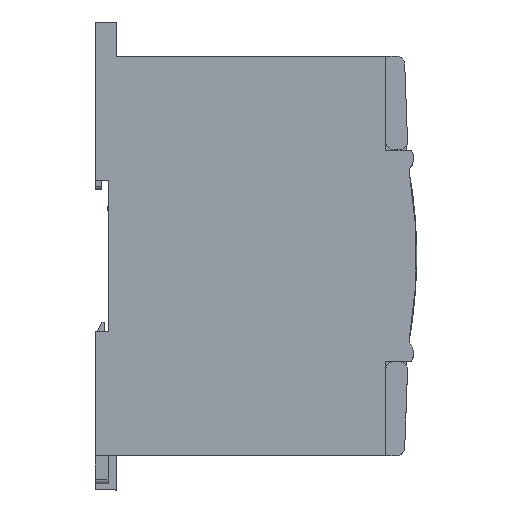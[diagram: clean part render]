
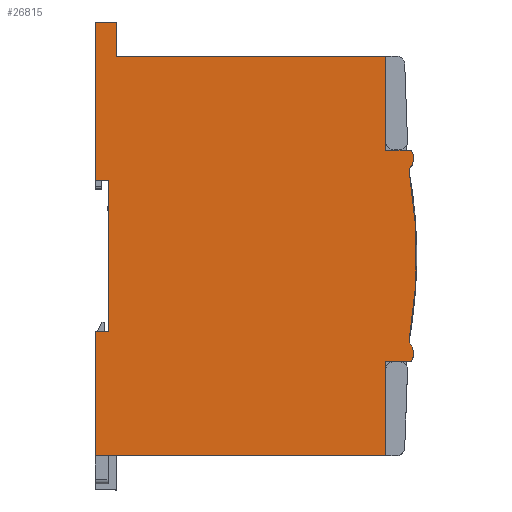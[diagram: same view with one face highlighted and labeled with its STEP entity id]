
A CAD part, top view. The second image highlights one B-rep face of the part: STEP entity #26815.
In plain terms, the highlighted planar face has unit normal (0, 0, 1) as drawn and (-1, 0, 0) by its records, which use the part's own axes.
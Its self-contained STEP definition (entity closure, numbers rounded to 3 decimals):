
#148 = DIRECTION ( 'NONE',  ( 0., 0., -1. ) ) ;
#1111 = ORIENTED_EDGE ( 'NONE', *, *, #59226, .T. ) ;
#1520 = CARTESIAN_POINT ( 'NONE',  ( 0., 71.8, -75.6 ) ) ;
#2378 = CARTESIAN_POINT ( 'NONE',  ( 0., 71.8, -1.268 ) ) ;
#2924 = EDGE_CURVE ( 'NONE', #19900, #71574, #72274, .T. ) ;
#3504 = CARTESIAN_POINT ( 'NONE',  ( 0., 64.75, -75.6 ) ) ;
#5483 = DIRECTION ( 'NONE',  ( 1., 0., 0. ) ) ;
#6009 = LINE ( 'NONE', #46606, #52717 ) ;
#6850 = VECTOR ( 'NONE', #41732, 1000. ) ;
#7354 = EDGE_LOOP ( 'NONE', ( #77634, #43516, #19748, #52906, #22972, #81910, #1111, #85115, #55092, #84096, #30653, #83100, #57328, #30862, #18698, #62469, #31570, #44754 ) ) ;
#7370 = EDGE_CURVE ( 'NONE', #57009, #43888, #50969, .T. ) ;
#8207 = DIRECTION ( 'NONE',  ( 0., 0., 1. ) ) ;
#9167 = CARTESIAN_POINT ( 'NONE',  ( 0., 22.2, -75.6 ) ) ;
#10727 = DIRECTION ( 'NONE',  ( 0., 0., -1. ) ) ;
#10825 = LINE ( 'NONE', #1520, #44055 ) ;
#11390 = DIRECTION ( 'NONE',  ( 0., 1., 0. ) ) ;
#12437 = VECTOR ( 'NONE', #11390, 1000. ) ;
#13217 = CARTESIAN_POINT ( 'NONE',  ( 0., 69.955, -1.724 ) ) ;
#14155 = VERTEX_POINT ( 'NONE', #3504 ) ;
#15181 = CARTESIAN_POINT ( 'NONE',  ( 0., 29.25, -75.6 ) ) ;
#17694 = LINE ( 'NONE', #29721, #35323 ) ;
#18211 = CARTESIAN_POINT ( 'NONE',  ( 0., 69.935, -4.323 ) ) ;
#18698 = ORIENTED_EDGE ( 'NONE', *, *, #51298, .F. ) ;
#18872 = VERTEX_POINT ( 'NONE', #83350 ) ;
#19335 = CARTESIAN_POINT ( 'NONE',  ( 0., 102., -75.6 ) ) ;
#19748 = ORIENTED_EDGE ( 'NONE', *, *, #50050, .F. ) ;
#19900 = VERTEX_POINT ( 'NONE', #46421 ) ;
#19922 = DIRECTION ( 'NONE',  ( 0., 1., -0.008 ) ) ;
#20790 = VERTEX_POINT ( 'NONE', #75278 ) ;
#21290 = VECTOR ( 'NONE', #48699, 1000. ) ;
#21936 = AXIS2_PLACEMENT_3D ( 'NONE', #45213, #5483, #51922 ) ;
#22972 = ORIENTED_EDGE ( 'NONE', *, *, #34600, .F. ) ;
#24859 = EDGE_CURVE ( 'NONE', #36488, #28942, #45456, .T. ) ;
#24885 = PLANE ( 'NONE',  #72885 ) ;
#26310 = VECTOR ( 'NONE', #55619, 1000. ) ;
#26759 = LINE ( 'NONE', #43814, #44492 ) ;
#26815 = ADVANCED_FACE ( 'NONE', ( #30559 ), #24885, .F. ) ;
#27158 = DIRECTION ( 'NONE',  ( 0., 0., -1. ) ) ;
#27357 = CARTESIAN_POINT ( 'NONE',  ( 0., 94., -7.268 ) ) ;
#28142 = VECTOR ( 'NONE', #54998, 1000. ) ;
#28318 = EDGE_CURVE ( 'NONE', #83274, #76481, #43358, .T. ) ;
#28942 = VERTEX_POINT ( 'NONE', #82988 ) ;
#29721 = CARTESIAN_POINT ( 'NONE',  ( 0., 64.75, -72.4 ) ) ;
#29793 = EDGE_CURVE ( 'NONE', #20790, #36488, #10825, .T. ) ;
#30119 = DIRECTION ( 'NONE',  ( 1., 0., 0. ) ) ;
#30559 = FACE_OUTER_BOUND ( 'NONE', #7354, .T. ) ;
#30653 = ORIENTED_EDGE ( 'NONE', *, *, #7370, .F. ) ;
#30862 = ORIENTED_EDGE ( 'NONE', *, *, #29793, .F. ) ;
#31570 = ORIENTED_EDGE ( 'NONE', *, *, #37584, .T. ) ;
#32196 = EDGE_CURVE ( 'NONE', #76525, #43888, #75418, .T. ) ;
#32329 = CARTESIAN_POINT ( 'NONE',  ( 0., 26.494, -1.694 ) ) ;
#33365 = LINE ( 'NONE', #51711, #66689 ) ;
#33908 = LINE ( 'NONE', #35769, #49548 ) ;
#34600 = EDGE_CURVE ( 'NONE', #52298, #19900, #79107, .T. ) ;
#34961 = DIRECTION ( 'NONE',  ( 0., 1., 0. ) ) ;
#35323 = VECTOR ( 'NONE', #69552, 1000. ) ;
#35426 = VERTEX_POINT ( 'NONE', #77826 ) ;
#35769 = CARTESIAN_POINT ( 'NONE',  ( 0., 94., -7.268 ) ) ;
#36488 = VERTEX_POINT ( 'NONE', #2378 ) ;
#36964 = CARTESIAN_POINT ( 'NONE',  ( 0., 24.065, -4.323 ) ) ;
#37404 = VECTOR ( 'NONE', #34961, 1000. ) ;
#37584 = EDGE_CURVE ( 'NONE', #83274, #35426, #33365, .T. ) ;
#38220 = DIRECTION ( 'NONE',  ( 0., 0., -1. ) ) ;
#41732 = DIRECTION ( 'NONE',  ( 0., 0.998, -0.06 ) ) ;
#41905 = CARTESIAN_POINT ( 'NONE',  ( 0., 29.25, -75.6 ) ) ;
#42457 = DIRECTION ( 'NONE',  ( 0., -1., 0. ) ) ;
#42884 = EDGE_CURVE ( 'NONE', #35426, #66383, #78408, .T. ) ;
#43358 = LINE ( 'NONE', #27357, #78724 ) ;
#43516 = ORIENTED_EDGE ( 'NONE', *, *, #44015, .F. ) ;
#43679 = DIRECTION ( 'NONE',  ( 0., 0., -1. ) ) ;
#43814 = CARTESIAN_POINT ( 'NONE',  ( 0., 0., -75.6 ) ) ;
#43888 = VERTEX_POINT ( 'NONE', #47211 ) ;
#44015 = EDGE_CURVE ( 'NONE', #53465, #14155, #17694, .T. ) ;
#44055 = VECTOR ( 'NONE', #8207, 1000. ) ;
#44093 = EDGE_CURVE ( 'NONE', #76525, #18872, #62320, .T. ) ;
#44492 = VECTOR ( 'NONE', #10727, 1000. ) ;
#44754 = ORIENTED_EDGE ( 'NONE', *, *, #42884, .T. ) ;
#45213 = CARTESIAN_POINT ( 'NONE',  ( 0., 69.935, -4.323 ) ) ;
#45456 = CIRCLE ( 'NONE', #21936, 3.579 ) ;
#46421 = CARTESIAN_POINT ( 'NONE',  ( 0., 29.25, -75.6 ) ) ;
#46606 = CARTESIAN_POINT ( 'NONE',  ( 0., 22.2, -1.268 ) ) ;
#47121 = LINE ( 'NONE', #13217, #64819 ) ;
#47211 = CARTESIAN_POINT ( 'NONE',  ( 0., 27.268, -1.741 ) ) ;
#47948 = CARTESIAN_POINT ( 'NONE',  ( 0., 0., -7.268 ) ) ;
#48699 = DIRECTION ( 'NONE',  ( 0., 0., 1. ) ) ;
#48842 = VERTEX_POINT ( 'NONE', #47948 ) ;
#48956 = CARTESIAN_POINT ( 'NONE',  ( 0., 29.25, -72.4 ) ) ;
#49548 = VECTOR ( 'NONE', #42457, 1000. ) ;
#50050 = EDGE_CURVE ( 'NONE', #71574, #53465, #70774, .T. ) ;
#50969 = CIRCLE ( 'NONE', #55907, 112.688 ) ;
#51003 = EDGE_CURVE ( 'NONE', #48842, #52298, #26759, .T. ) ;
#51298 = EDGE_CURVE ( 'NONE', #76481, #20790, #33908, .T. ) ;
#51711 = CARTESIAN_POINT ( 'NONE',  ( 0., 94., -70.6 ) ) ;
#51752 = VERTEX_POINT ( 'NONE', #72359 ) ;
#51866 = CARTESIAN_POINT ( 'NONE',  ( 0., 94., -7.268 ) ) ;
#51922 = DIRECTION ( 'NONE',  ( 0., 0., -1. ) ) ;
#52298 = VERTEX_POINT ( 'NONE', #73937 ) ;
#52717 = VECTOR ( 'NONE', #148, 1000. ) ;
#52906 = ORIENTED_EDGE ( 'NONE', *, *, #2924, .F. ) ;
#53465 = VERTEX_POINT ( 'NONE', #59139 ) ;
#54998 = DIRECTION ( 'NONE',  ( 0., 1., 0. ) ) ;
#55073 = CARTESIAN_POINT ( 'NONE',  ( 0., 66.487, -1.698 ) ) ;
#55092 = ORIENTED_EDGE ( 'NONE', *, *, #44093, .F. ) ;
#55619 = DIRECTION ( 'NONE',  ( 0., 1., 0. ) ) ;
#55907 = AXIS2_PLACEMENT_3D ( 'NONE', #64036, #30119, #27158 ) ;
#57009 = VERTEX_POINT ( 'NONE', #55073 ) ;
#57328 = ORIENTED_EDGE ( 'NONE', *, *, #24859, .F. ) ;
#57686 = CARTESIAN_POINT ( 'NONE',  ( 0., 94., -70.6 ) ) ;
#58367 = DIRECTION ( 'NONE',  ( 0., 1., 0. ) ) ;
#59139 = CARTESIAN_POINT ( 'NONE',  ( 0., 64.75, -72.4 ) ) ;
#59226 = EDGE_CURVE ( 'NONE', #48842, #51752, #71761, .T. ) ;
#62320 = CIRCLE ( 'NONE', #69765, 3.579 ) ;
#62469 = ORIENTED_EDGE ( 'NONE', *, *, #28318, .F. ) ;
#62635 = CARTESIAN_POINT ( 'NONE',  ( 0., 69.935, -4.325 ) ) ;
#62759 = VECTOR ( 'NONE', #71340, 1000. ) ;
#64036 = CARTESIAN_POINT ( 'NONE',  ( 0., 47., -112.688 ) ) ;
#64634 = CARTESIAN_POINT ( 'NONE',  ( 0., 102., -70.6 ) ) ;
#64819 = VECTOR ( 'NONE', #19922, 1000. ) ;
#66383 = VERTEX_POINT ( 'NONE', #19335 ) ;
#66689 = VECTOR ( 'NONE', #58367, 1000. ) ;
#68970 = EDGE_CURVE ( 'NONE', #57009, #28942, #47121, .T. ) ;
#69552 = DIRECTION ( 'NONE',  ( 0., 0., -1. ) ) ;
#69765 = AXIS2_PLACEMENT_3D ( 'NONE', #36964, #83471, #43679 ) ;
#70774 = LINE ( 'NONE', #81206, #37404 ) ;
#71340 = DIRECTION ( 'NONE',  ( 0., 0., -1. ) ) ;
#71574 = VERTEX_POINT ( 'NONE', #48956 ) ;
#71761 = LINE ( 'NONE', #84287, #12437 ) ;
#72274 = LINE ( 'NONE', #41905, #21290 ) ;
#72359 = CARTESIAN_POINT ( 'NONE',  ( 0., 22.2, -7.268 ) ) ;
#72885 = AXIS2_PLACEMENT_3D ( 'NONE', #18211, #78069, #38220 ) ;
#73860 = DIRECTION ( 'NONE',  ( 0., 0., 1. ) ) ;
#73937 = CARTESIAN_POINT ( 'NONE',  ( 0., 0., -75.6 ) ) ;
#75278 = CARTESIAN_POINT ( 'NONE',  ( 0., 71.8, -7.268 ) ) ;
#75418 = LINE ( 'NONE', #62635, #6850 ) ;
#76481 = VERTEX_POINT ( 'NONE', #51866 ) ;
#76525 = VERTEX_POINT ( 'NONE', #32329 ) ;
#77299 = LINE ( 'NONE', #9167, #26310 ) ;
#77634 = ORIENTED_EDGE ( 'NONE', *, *, #83890, .F. ) ;
#77826 = CARTESIAN_POINT ( 'NONE',  ( 0., 102., -70.6 ) ) ;
#78069 = DIRECTION ( 'NONE',  ( 1., 0., 0. ) ) ;
#78408 = LINE ( 'NONE', #64634, #62759 ) ;
#78724 = VECTOR ( 'NONE', #73860, 1000. ) ;
#79107 = LINE ( 'NONE', #15181, #28142 ) ;
#81206 = CARTESIAN_POINT ( 'NONE',  ( 0., 0., -72.4 ) ) ;
#81341 = EDGE_CURVE ( 'NONE', #18872, #51752, #6009, .T. ) ;
#81910 = ORIENTED_EDGE ( 'NONE', *, *, #51003, .F. ) ;
#82988 = CARTESIAN_POINT ( 'NONE',  ( 0., 67.494, -1.705 ) ) ;
#83100 = ORIENTED_EDGE ( 'NONE', *, *, #68970, .T. ) ;
#83274 = VERTEX_POINT ( 'NONE', #57686 ) ;
#83350 = CARTESIAN_POINT ( 'NONE',  ( 0., 22.2, -1.268 ) ) ;
#83471 = DIRECTION ( 'NONE',  ( 1., 0., 0. ) ) ;
#83890 = EDGE_CURVE ( 'NONE', #14155, #66383, #77299, .T. ) ;
#84096 = ORIENTED_EDGE ( 'NONE', *, *, #32196, .T. ) ;
#84287 = CARTESIAN_POINT ( 'NONE',  ( 0., 0., -7.268 ) ) ;
#85115 = ORIENTED_EDGE ( 'NONE', *, *, #81341, .F. ) ;
